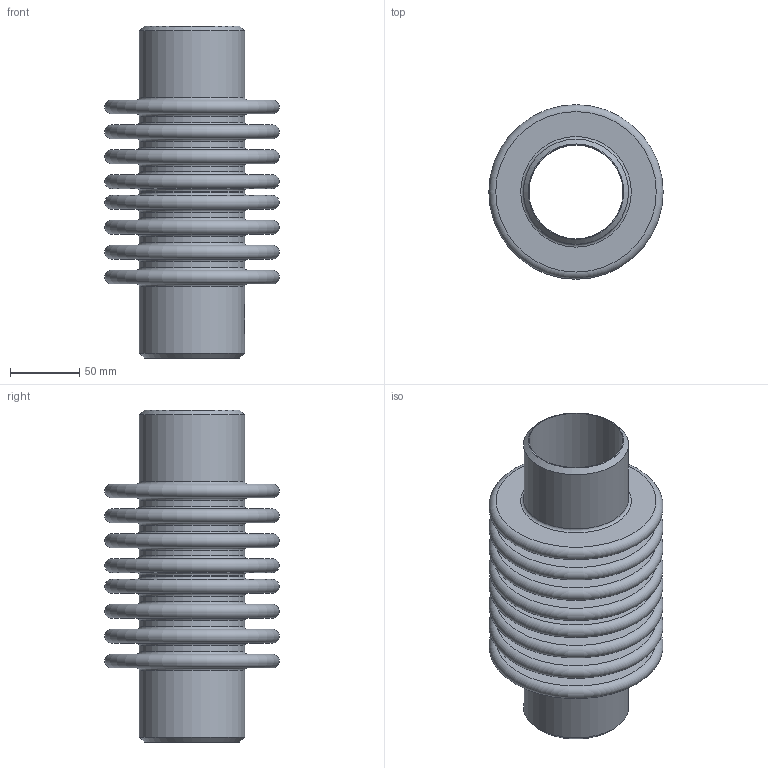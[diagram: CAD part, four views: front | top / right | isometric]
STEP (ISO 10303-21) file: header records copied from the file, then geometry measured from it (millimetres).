
FILE_DESCRIPTION(/* description */ ('D140-02122','CAx-IF Rec.Pracs.---Representation and Presentation of Product Manufacturing Information (PMI)---4.0---2014-10-13'),/* implementation_level */ '2;1');
FILE_NAME(/* name */ '',/* time_stamp */ '2026-04-13T21:02:59+03:00',/* author */ ('DN.RU'),/* organization */ ('DN.RU'),/* preprocessor_version */ 'ST-DEVELOPER v20',/* originating_system */ 'Autodesk Inventor 2025',/* authorisation */ '');
FILE_SCHEMA (('AP242_MANAGED_MODEL_BASED_3D_ENGINEERING_MIM_LF { 1 0 10303 442 1 1 4 }'));
Length unit declared in the file: millimetre
Products named in the file (1): CB-3131-W
Bounding box: 126 x 126 x 240 mm (x, y, z)
Volume: 251456.8 mm3; surface area: 356178.3 mm2
Topology: 1 solids, 1 shells, 304 faces, 753 edges, 502 vertices
Faces by surface type: plane 126, bspline 91, torus 48, cylinder 37, cone 2
Full cylindrical faces by diameter (mm): 68 x2, 74 x7, 76 x9
Entity records: 12788 total; most frequent: CARTESIAN_POINT 5247, ORIENTED_EDGE 1506, DIRECTION 1335, EDGE_CURVE 753, AXIS2_PLACEMENT_3D 521, VERTEX_POINT 502, STYLED_ITEM 358, EDGE_LOOP 357
